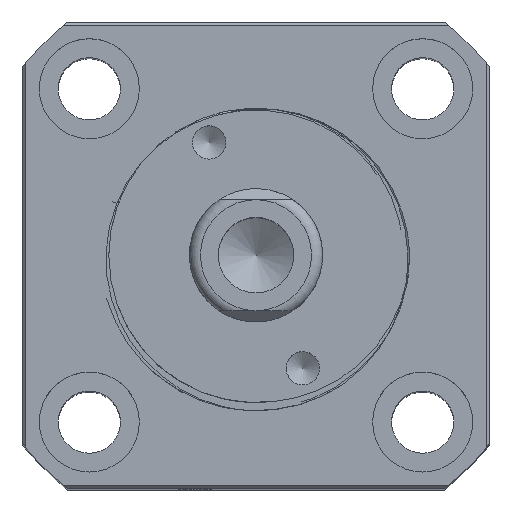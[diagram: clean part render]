
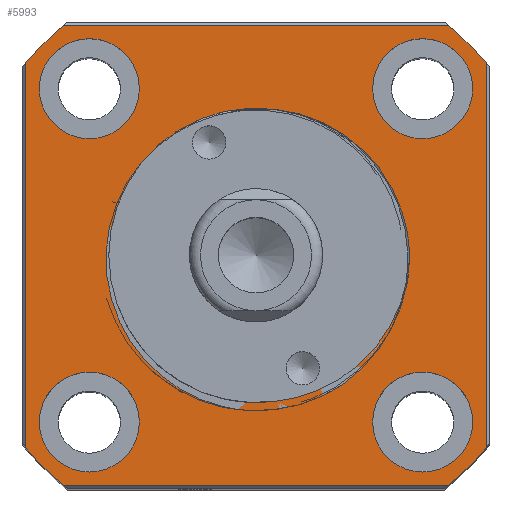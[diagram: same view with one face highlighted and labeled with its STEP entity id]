
A CAD part, top view. The second image highlights one B-rep face of the part: STEP entity #5993.
In plain terms, the highlighted planar face has unit normal (0, 0, 1).
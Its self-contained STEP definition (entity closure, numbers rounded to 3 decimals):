
#2888=PLANE('',#12301);
#3258=LINE('',#18075,#4133);
#3259=LINE('',#18080,#4134);
#3260=LINE('',#18084,#4135);
#3261=LINE('',#18088,#4136);
#4133=VECTOR('',#12936,1.);
#4134=VECTOR('',#12939,1.);
#4135=VECTOR('',#12942,1.);
#4136=VECTOR('',#12945,1.);
#5567=B_SPLINE_CURVE_WITH_KNOTS('',3,(#18062,#18063,#18064,#18065,#18066,
#18067),.UNSPECIFIED.,.F.,.F.,(4,2,4),(0.,0.5,1.),.UNSPECIFIED.);
#5568=B_SPLINE_CURVE_WITH_KNOTS('',3,(#18069,#18070,#18071,#18072,#18073,
#18074),.UNSPECIFIED.,.F.,.F.,(4,2,4),(0.,0.5,1.),.UNSPECIFIED.);
#5993=ADVANCED_FACE('',(#6583,#6584,#6585,#6586,#6587,#6588),#2888,.T.);
#6583=FACE_BOUND('',#6800,.T.);
#6584=FACE_BOUND('',#6801,.T.);
#6585=FACE_BOUND('',#6802,.T.);
#6586=FACE_BOUND('',#6803,.T.);
#6587=FACE_BOUND('',#6804,.T.);
#6588=FACE_BOUND('',#6805,.T.);
#6800=EDGE_LOOP('',(#7529));
#6801=EDGE_LOOP('',(#7530));
#6802=EDGE_LOOP('',(#7531));
#6803=EDGE_LOOP('',(#7532));
#6804=EDGE_LOOP('',(#7533,#7534,#7535));
#6805=EDGE_LOOP('',(#7536,#7537,#7538,#7539,#7540,#7541,#7542,#7543));
#7529=ORIENTED_EDGE('',*,*,#10871,.F.);
#7530=ORIENTED_EDGE('',*,*,#10873,.F.);
#7531=ORIENTED_EDGE('',*,*,#10875,.F.);
#7532=ORIENTED_EDGE('',*,*,#10877,.F.);
#7533=ORIENTED_EDGE('',*,*,#10907,.F.);
#7534=ORIENTED_EDGE('',*,*,#10929,.T.);
#7535=ORIENTED_EDGE('',*,*,#10930,.T.);
#7536=ORIENTED_EDGE('',*,*,#10931,.T.);
#7537=ORIENTED_EDGE('',*,*,#10932,.T.);
#7538=ORIENTED_EDGE('',*,*,#10933,.T.);
#7539=ORIENTED_EDGE('',*,*,#10934,.T.);
#7540=ORIENTED_EDGE('',*,*,#10935,.T.);
#7541=ORIENTED_EDGE('',*,*,#10936,.T.);
#7542=ORIENTED_EDGE('',*,*,#10937,.T.);
#7543=ORIENTED_EDGE('',*,*,#10938,.T.);
#9957=VERTEX_POINT('',#17636);
#9959=VERTEX_POINT('',#17641);
#9961=VERTEX_POINT('',#17646);
#9963=VERTEX_POINT('',#17651);
#9993=VERTEX_POINT('',#17869);
#9994=VERTEX_POINT('',#17871);
#10015=VERTEX_POINT('',#18068);
#10016=VERTEX_POINT('',#18076);
#10017=VERTEX_POINT('',#18077);
#10018=VERTEX_POINT('',#18079);
#10019=VERTEX_POINT('',#18081);
#10020=VERTEX_POINT('',#18083);
#10021=VERTEX_POINT('',#18085);
#10022=VERTEX_POINT('',#18087);
#10023=VERTEX_POINT('',#18089);
#10871=EDGE_CURVE('',#9957,#9957,#12113,.T.);
#10873=EDGE_CURVE('',#9959,#9959,#12115,.T.);
#10875=EDGE_CURVE('',#9961,#9961,#12117,.T.);
#10877=EDGE_CURVE('',#9963,#9963,#12119,.T.);
#10907=EDGE_CURVE('',#9993,#9994,#12129,.T.);
#10929=EDGE_CURVE('',#9993,#10015,#5567,.T.);
#10930=EDGE_CURVE('',#10015,#9994,#5568,.T.);
#10931=EDGE_CURVE('',#10016,#10017,#3258,.T.);
#10932=EDGE_CURVE('',#10017,#10018,#12131,.T.);
#10933=EDGE_CURVE('',#10018,#10019,#3259,.T.);
#10934=EDGE_CURVE('',#10019,#10020,#12132,.T.);
#10935=EDGE_CURVE('',#10020,#10021,#3260,.T.);
#10936=EDGE_CURVE('',#10021,#10022,#12133,.T.);
#10937=EDGE_CURVE('',#10022,#10023,#3261,.T.);
#10938=EDGE_CURVE('',#10023,#10016,#12134,.T.);
#12113=CIRCLE('',#12270,4.5);
#12115=CIRCLE('',#12273,4.5);
#12117=CIRCLE('',#12276,4.5);
#12119=CIRCLE('',#12279,4.5);
#12129=CIRCLE('',#12294,13.25);
#12131=CIRCLE('',#12297,27.);
#12132=CIRCLE('',#12298,27.);
#12133=CIRCLE('',#12299,27.);
#12134=CIRCLE('',#12300,27.);
#12270=AXIS2_PLACEMENT_3D('',#17635,#12881,#12882);
#12273=AXIS2_PLACEMENT_3D('',#17640,#12887,#12888);
#12276=AXIS2_PLACEMENT_3D('',#17645,#12893,#12894);
#12279=AXIS2_PLACEMENT_3D('',#17650,#12899,#12900);
#12294=AXIS2_PLACEMENT_3D('',#17870,#12929,#12930);
#12297=AXIS2_PLACEMENT_3D('',#18078,#12937,#12938);
#12298=AXIS2_PLACEMENT_3D('',#18082,#12940,#12941);
#12299=AXIS2_PLACEMENT_3D('',#18086,#12943,#12944);
#12300=AXIS2_PLACEMENT_3D('',#18090,#12946,#12947);
#12301=AXIS2_PLACEMENT_3D('',#18091,#12948,#12949);
#12881=DIRECTION('',(0.,0.,1.));
#12882=DIRECTION('',(1.,0.,0.));
#12887=DIRECTION('',(0.,0.,1.));
#12888=DIRECTION('',(1.,0.,0.));
#12893=DIRECTION('',(0.,0.,1.));
#12894=DIRECTION('',(1.,0.,0.));
#12899=DIRECTION('',(0.,0.,1.));
#12900=DIRECTION('',(1.,0.,0.));
#12929=DIRECTION('',(0.,0.,1.));
#12930=DIRECTION('',(1.,0.,0.));
#12936=DIRECTION('',(0.,1.,0.));
#12937=DIRECTION('',(0.,0.,1.));
#12938=DIRECTION('',(1.,0.,0.));
#12939=DIRECTION('',(-1.,0.,0.));
#12940=DIRECTION('',(0.,0.,1.));
#12941=DIRECTION('',(1.,0.,0.));
#12942=DIRECTION('',(0.,-1.,0.));
#12943=DIRECTION('',(0.,0.,1.));
#12944=DIRECTION('',(1.,0.,0.));
#12945=DIRECTION('',(1.,0.,0.));
#12946=DIRECTION('',(0.,0.,1.));
#12947=DIRECTION('',(1.,0.,0.));
#12948=DIRECTION('',(0.,0.,1.));
#12949=DIRECTION('',(-1.,0.,0.));
#17635=CARTESIAN_POINT('',(-55.318,-7.49,49.959));
#17636=CARTESIAN_POINT('',(-50.818,-7.49,49.959));
#17640=CARTESIAN_POINT('',(-25.318,-7.49,49.959));
#17641=CARTESIAN_POINT('',(-20.818,-7.49,49.959));
#17645=CARTESIAN_POINT('',(-25.318,22.51,49.959));
#17646=CARTESIAN_POINT('',(-20.818,22.51,49.959));
#17650=CARTESIAN_POINT('',(-55.318,22.51,49.959));
#17651=CARTESIAN_POINT('',(-50.818,22.51,49.959));
#17869=CARTESIAN_POINT('',(-38.589,20.647,49.959));
#17870=CARTESIAN_POINT('',(-40.318,7.51,49.959));
#17871=CARTESIAN_POINT('',(-38.589,-5.627,49.959));
#18062=CARTESIAN_POINT('',(-38.589,20.647,49.959));
#18063=CARTESIAN_POINT('',(-35.326,20.319,49.959));
#18064=CARTESIAN_POINT('',(-32.244,18.748,49.959));
#18065=CARTESIAN_POINT('',(-27.874,13.98,49.959));
#18066=CARTESIAN_POINT('',(-26.563,10.787,49.959));
#18067=CARTESIAN_POINT('',(-26.471,7.51,49.959));
#18068=CARTESIAN_POINT('',(-26.471,7.51,49.959));
#18069=CARTESIAN_POINT('',(-26.471,7.51,49.959));
#18070=CARTESIAN_POINT('',(-26.563,4.232,49.959));
#18071=CARTESIAN_POINT('',(-27.875,1.038,49.959));
#18072=CARTESIAN_POINT('',(-32.244,-3.729,49.959));
#18073=CARTESIAN_POINT('',(-35.325,-5.3,49.959));
#18074=CARTESIAN_POINT('',(-38.589,-5.627,49.959));
#18075=CARTESIAN_POINT('',(-19.618,28.51,49.959));
#18076=CARTESIAN_POINT('',(-19.618,-9.825,49.959));
#18077=CARTESIAN_POINT('',(-19.618,24.845,49.959));
#18078=CARTESIAN_POINT('',(-40.318,7.51,49.959));
#18079=CARTESIAN_POINT('',(-22.982,28.21,49.959));
#18080=CARTESIAN_POINT('',(-61.318,28.21,49.959));
#18081=CARTESIAN_POINT('',(-57.653,28.21,49.959));
#18082=CARTESIAN_POINT('',(-40.318,7.51,49.959));
#18083=CARTESIAN_POINT('',(-61.018,24.845,49.959));
#18084=CARTESIAN_POINT('',(-61.018,-13.49,49.959));
#18085=CARTESIAN_POINT('',(-61.018,-9.825,49.959));
#18086=CARTESIAN_POINT('',(-40.318,7.51,49.959));
#18087=CARTESIAN_POINT('',(-57.653,-13.19,49.959));
#18088=CARTESIAN_POINT('',(-19.318,-13.19,49.959));
#18089=CARTESIAN_POINT('',(-22.982,-13.19,49.959));
#18090=CARTESIAN_POINT('',(-40.318,7.51,49.959));
#18091=CARTESIAN_POINT('',(-40.318,7.51,49.959));
